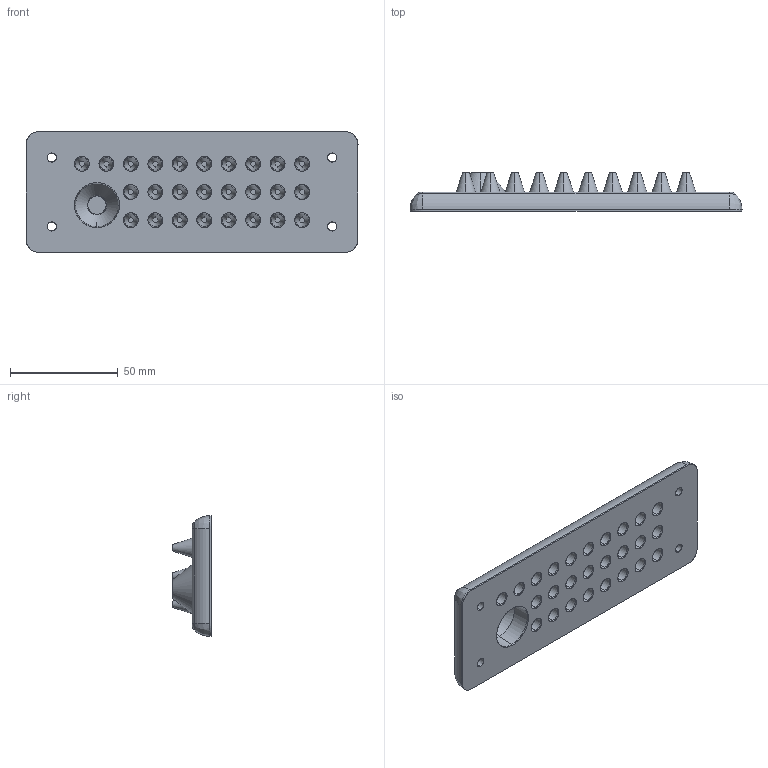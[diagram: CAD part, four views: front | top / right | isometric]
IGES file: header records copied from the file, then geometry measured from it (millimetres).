
Start section: SolidWorks IGES file using analytic representation for surfaces
Global section: file name: C:\Solidworks\omat tuotteet\Space charge models\Multigate\harting\IGES\106604.IGS; native system: SolidWorks 2016; preprocessor: SolidWorks 2016; author: joni.lehtonen; date: 160215.123740; units: millimetre
Bounding box: 154 x 17.75 x 56 mm (x, y, z)
Surface area: 41856.1 mm2 (no closed solid volume)
Topology: 0 solids, 0 shells, 1892 faces, 17153 edges, 17151 vertices
Faces by surface type: bspline 1233, revolution 659
